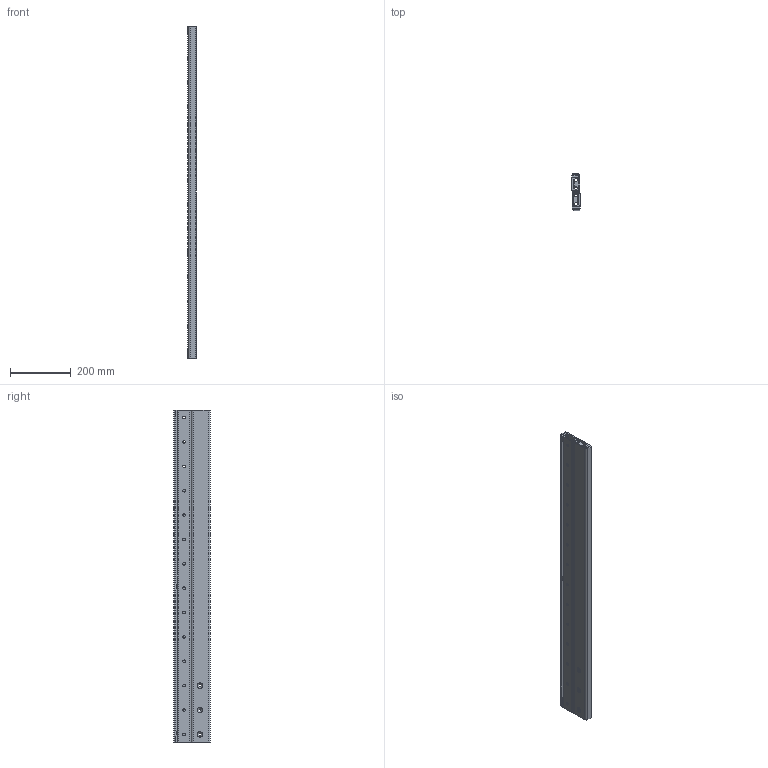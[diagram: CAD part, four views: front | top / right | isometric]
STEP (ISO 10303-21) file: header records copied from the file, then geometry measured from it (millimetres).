
FILE_DESCRIPTION(('STEP AP214'),'1');
FILE_NAME('rail_dss43-1090_00.stp','2017-04-17T03:59:14',('TraceParts'),('TraceParts S.A.'),'Spatial InterOp 3D',' ',' ');
FILE_SCHEMA(('automotive_design'));
Length unit declared in the file: millimetre
Products named in the file (3): rail_dss43-1090_00_1; rail_dss43-1090_00_2; rail_dss43-1090_00_3
Bounding box: 28 x 120 x 1090 mm (x, y, z)
Volume: 1957827.1 mm3; surface area: 782524.8 mm2
Topology: 3 solids, 3 shells, 314 faces, 838 edges, 540 vertices
Faces by surface type: plane 138, cylinder 120, cone 56
Entity records: 9987 total; most frequent: DIRECTION 1784, CARTESIAN_POINT 1695, ORIENTED_EDGE 1676, EDGE_CURVE 838, AXIS2_PLACEMENT_3D 629, VERTEX_POINT 540, LINE 526, VECTOR 526
